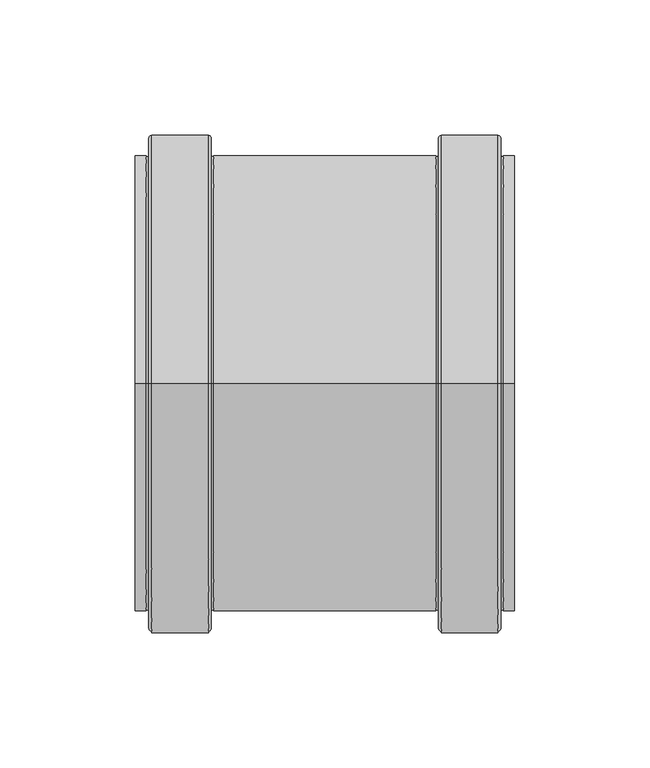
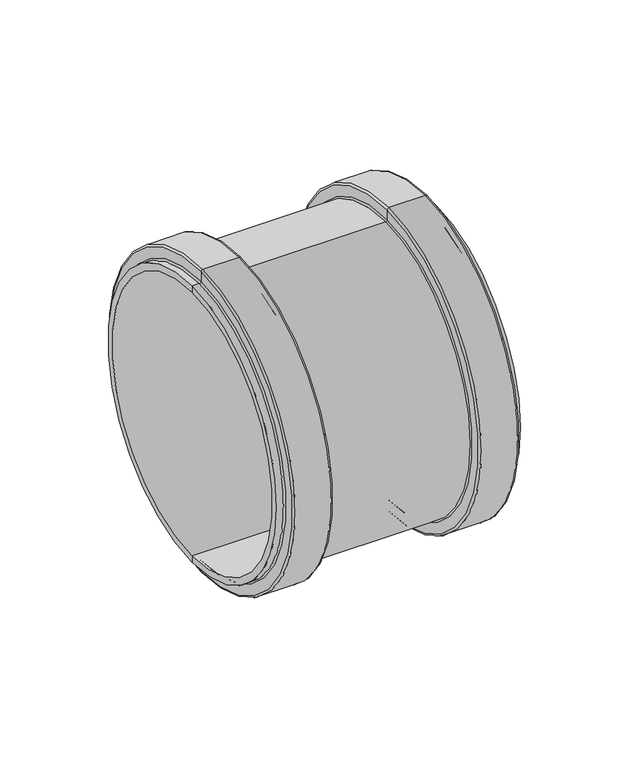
"""IFC4 building model written with IfcOpenShell, lengths in millimetres: pipe fitting geometry, MarleyPlumbingAndDrainage_PipeFitting_dBlueSlipCoupling_VMP : VMP-160-000-00D - 160mm - Blue."""

from ifc_helpers import new_model, si_unit, point, frame, origin, place, context, project, spatial, polyline, circle_curve, ellipse_curve, trimmed, source, transform, mapped, element, save
from ifc_brep_helpers import plane_surface, cylinder_surface, revolved_surface, advanced_brep


def pipe_fitting_46917a60(model_context):
    return source(origin(), model_context, "Body", "AdvancedBrep", [
        advanced_brep(
        [(-55.8253818, 0.0, -84.0), (-55.8253818, 0.0, 84.0), (26.1746182, 0.0, 84.0), (26.1746182, 0.0, -84.0), (55.1746182, 0.0, -80.0), (55.1746182, 0.0, 80.0), (-84.8253818, 0.0, 80.0), (-84.8253818, 0.0, -80.0), (55.1746182, 0.0, -84.0), (55.1746182, 0.0, 84.0), (51.1746182, 0.0, -84.0), (51.1746182, 0.0, 84.0), (50.1746182, 0.0, -85.0), (50.1746182, 0.0, 85.0), (50.1746182, 0.0, -91.0), (50.1746182, 0.0, 91.0), (49.1746182, 0.0, -92.0), (49.1746182, 0.0, 92.0), (28.1746182, 0.0, -92.0), (28.1746182, 0.0, 92.0), (27.1746182, 0.0, -91.0), (27.1746182, 0.0, 91.0), (27.1746182, 0.0, -85.0), (27.1746182, 0.0, 85.0), (-56.8253818, 0.0, -85.0), (-56.8253818, 0.0, 85.0), (-56.8253818, 0.0, -91.0), (-56.8253818, 0.0, 91.0), (-57.8253818, 0.0, -92.0), (-57.8253818, 0.0, 92.0), (-78.8253818, 0.0, -92.0), (-78.8253818, 0.0, 92.0), (-79.8253818, 0.0, -91.0), (-79.8253818, 0.0, 91.0), (-79.8253818, 0.0, -85.0), (-79.8253818, 0.0, 85.0), (-80.8253818, 0.0, -84.0), (-80.8253818, 0.0, 84.0), (-84.8253818, 0.0, -84.0), (-84.8253818, 0.0, 84.0)],
        [
            (0, 1, circle_curve(frame((-55.8253818, 0.0, 0.0), z_axis=(1.0, 0.0, 0.0), x_axis=(0.0, 0.0, 1.0)), 84.0)),
            (1, 2),
            (2, 3, circle_curve(frame((26.1746182, 0.0, 0.0), z_axis=(-1.0, 0.0, 0.0), x_axis=(0.0, 0.0, 1.0)), 84.0)),
            (3, 0),
            (1, 0, circle_curve(frame((-55.8253818, 0.0, 0.0), z_axis=(1.0, 0.0, 0.0), x_axis=(0.0, 0.0, 1.0)), 84.0)),
            (3, 2, circle_curve(frame((26.1746182, 0.0, 0.0), z_axis=(-1.0, 0.0, 0.0), x_axis=(0.0, 0.0, 1.0)), 84.0)),
            (4, 5, circle_curve(frame((55.1746182, 0.0, 0.0), z_axis=(1.0, 0.0, 0.0), x_axis=(0.0, 0.0, 1.0)), 80.0)),
            (5, 6),
            (6, 7, circle_curve(frame((-84.8253818, 0.0, 0.0), z_axis=(-1.0, 0.0, 0.0), x_axis=(0.0, 0.0, 1.0)), 80.0)),
            (7, 4),
            (5, 4, circle_curve(frame((55.1746182, 0.0, 0.0), z_axis=(1.0, 0.0, 0.0), x_axis=(0.0, 0.0, 1.0)), 80.0)),
            (7, 6, circle_curve(frame((-84.8253818, 0.0, 0.0), z_axis=(-1.0, 0.0, 0.0), x_axis=(0.0, 0.0, 1.0)), 80.0)),
            (8, 9, circle_curve(frame((55.1746182, 0.0, 0.0), z_axis=(1.0, 0.0, 0.0), x_axis=(0.0, 0.0, 1.0)), 84.0)),
            (9, 5),
            (4, 8),
            (9, 8, circle_curve(frame((55.1746182, 0.0, 0.0), z_axis=(1.0, 0.0, 0.0), x_axis=(0.0, 0.0, 1.0)), 84.0)),
            (10, 11, circle_curve(frame((51.1746182, 0.0, 0.0), z_axis=(1.0, 0.0, 0.0), x_axis=(0.0, 0.0, 1.0)), 84.0)),
            (11, 9),
            (8, 10),
            (11, 10, circle_curve(frame((51.1746182, 0.0, 0.0), z_axis=(1.0, 0.0, 0.0), x_axis=(0.0, 0.0, 1.0)), 84.0)),
            (12, 13, circle_curve(frame((50.1746182, 0.0, 0.0), z_axis=(1.0, 0.0, 0.0), x_axis=(0.0, 0.0, 1.0)), 85.0)),
            (13, 11, circle_curve(frame((51.1746182, 0.0, 85.0), z_axis=(0.0, -1.0, 0.0), x_axis=(1.0, 0.0, 0.0)), 1.0)),
            (10, 12, circle_curve(frame((51.1746182, 0.0, -85.0), z_axis=(0.0, -1.0, 0.0), x_axis=(1.0, 0.0, 0.0)), 1.0)),
            (13, 12, circle_curve(frame((50.1746182, 0.0, 0.0), z_axis=(1.0, 0.0, 0.0), x_axis=(0.0, 0.0, 1.0)), 85.0)),
            (14, 15, circle_curve(frame((50.1746182, 0.0, 0.0), z_axis=(1.0, 0.0, 0.0), x_axis=(0.0, 0.0, 1.0)), 91.0)),
            (15, 13),
            (12, 14),
            (15, 14, circle_curve(frame((50.1746182, 0.0, 0.0), z_axis=(1.0, 0.0, 0.0), x_axis=(0.0, 0.0, 1.0)), 91.0)),
            (16, 17, circle_curve(frame((49.1746182, 0.0, 0.0), z_axis=(1.0, 0.0, 0.0), x_axis=(0.0, 0.0, 1.0)), 92.0)),
            (17, 15, circle_curve(frame((49.1746182, 0.0, 91.0), z_axis=(0.0, 1.0, 0.0), x_axis=(1.0, 0.0, 0.0)), 1.0)),
            (14, 16, circle_curve(frame((49.1746182, 0.0, -91.0), z_axis=(0.0, 1.0, 0.0), x_axis=(1.0, 0.0, 0.0)), 1.0)),
            (17, 16, circle_curve(frame((49.1746182, 0.0, 0.0), z_axis=(1.0, 0.0, 0.0), x_axis=(0.0, 0.0, 1.0)), 92.0)),
            (18, 19, circle_curve(frame((28.1746182, 0.0, 0.0), z_axis=(1.0, 0.0, 0.0), x_axis=(0.0, 0.0, 1.0)), 92.0)),
            (19, 17),
            (16, 18),
            (19, 18, circle_curve(frame((28.1746182, 0.0, 0.0), z_axis=(1.0, 0.0, 0.0), x_axis=(0.0, 0.0, 1.0)), 92.0)),
            (20, 21, circle_curve(frame((27.1746182, 0.0, 0.0), z_axis=(1.0, 0.0, 0.0), x_axis=(0.0, 0.0, 1.0)), 91.0)),
            (21, 19, circle_curve(frame((28.1746182, 0.0, 91.0), z_axis=(0.0, 1.0, 0.0), x_axis=(1.0, 0.0, 0.0)), 1.0)),
            (18, 20, circle_curve(frame((28.1746182, 0.0, -91.0), z_axis=(0.0, 1.0, 0.0), x_axis=(1.0, 0.0, 0.0)), 1.0)),
            (21, 20, circle_curve(frame((27.1746182, 0.0, 0.0), z_axis=(1.0, 0.0, 0.0), x_axis=(0.0, 0.0, 1.0)), 91.0)),
            (22, 23, circle_curve(frame((27.1746182, 0.0, 0.0), z_axis=(1.0, 0.0, 0.0), x_axis=(0.0, 0.0, 1.0)), 85.0)),
            (23, 21),
            (20, 22),
            (23, 22, circle_curve(frame((27.1746182, 0.0, 0.0), z_axis=(1.0, 0.0, 0.0), x_axis=(0.0, 0.0, 1.0)), 85.0)),
            (2, 23, circle_curve(frame((26.1746182, 0.0, 85.0), z_axis=(0.0, -1.0, 0.0), x_axis=(1.0, 0.0, 0.0)), 1.0)),
            (22, 3, circle_curve(frame((26.1746182, 0.0, -85.0), z_axis=(0.0, -1.0, 0.0), x_axis=(1.0, 0.0, 0.0)), 1.0)),
            (24, 25, circle_curve(frame((-56.8253818, 0.0, 0.0), z_axis=(1.0, 0.0, 0.0), x_axis=(0.0, 0.0, 1.0)), 85.0)),
            (25, 1, circle_curve(frame((-55.8253818, 0.0, 85.0), z_axis=(0.0, -1.0, 0.0), x_axis=(1.0, 0.0, 0.0)), 1.0)),
            (0, 24, circle_curve(frame((-55.8253818, 0.0, -85.0), z_axis=(0.0, -1.0, 0.0), x_axis=(1.0, 0.0, 0.0)), 1.0)),
            (25, 24, circle_curve(frame((-56.8253818, 0.0, 0.0), z_axis=(1.0, 0.0, 0.0), x_axis=(0.0, 0.0, 1.0)), 85.0)),
            (26, 27, circle_curve(frame((-56.8253818, 0.0, 0.0), z_axis=(1.0, 0.0, 0.0), x_axis=(0.0, 0.0, 1.0)), 91.0)),
            (27, 25),
            (24, 26),
            (27, 26, circle_curve(frame((-56.8253818, 0.0, 0.0), z_axis=(1.0, 0.0, 0.0), x_axis=(0.0, 0.0, 1.0)), 91.0)),
            (28, 29, circle_curve(frame((-57.8253818, 0.0, 0.0), z_axis=(1.0, 0.0, 0.0), x_axis=(0.0, 0.0, 1.0)), 92.0)),
            (29, 27, circle_curve(frame((-57.8253818, 0.0, 91.0), z_axis=(0.0, 1.0, 0.0), x_axis=(1.0, 0.0, 0.0)), 1.0)),
            (26, 28, circle_curve(frame((-57.8253818, 0.0, -91.0), z_axis=(0.0, 1.0, 0.0), x_axis=(1.0, 0.0, 0.0)), 1.0)),
            (29, 28, circle_curve(frame((-57.8253818, 0.0, 0.0), z_axis=(1.0, 0.0, 0.0), x_axis=(0.0, 0.0, 1.0)), 92.0)),
            (30, 31, circle_curve(frame((-78.8253818, 0.0, 0.0), z_axis=(1.0, 0.0, 0.0), x_axis=(0.0, 0.0, 1.0)), 92.0)),
            (31, 29),
            (28, 30),
            (31, 30, circle_curve(frame((-78.8253818, 0.0, 0.0), z_axis=(1.0, 0.0, 0.0), x_axis=(0.0, 0.0, 1.0)), 92.0)),
            (32, 33, circle_curve(frame((-79.8253818, 0.0, 0.0), z_axis=(1.0, 0.0, 0.0), x_axis=(0.0, 0.0, 1.0)), 91.0)),
            (33, 31, circle_curve(frame((-78.8253818, 0.0, 91.0), z_axis=(0.0, 1.0, 0.0), x_axis=(1.0, 0.0, 0.0)), 1.0)),
            (30, 32, circle_curve(frame((-78.8253818, 0.0, -91.0), z_axis=(0.0, 1.0, 0.0), x_axis=(1.0, 0.0, 0.0)), 1.0)),
            (33, 32, circle_curve(frame((-79.8253818, 0.0, 0.0), z_axis=(1.0, 0.0, 0.0), x_axis=(0.0, 0.0, 1.0)), 91.0)),
            (34, 35, circle_curve(frame((-79.8253818, 0.0, 0.0), z_axis=(1.0, 0.0, 0.0), x_axis=(0.0, 0.0, 1.0)), 85.0)),
            (35, 33),
            (32, 34),
            (35, 34, circle_curve(frame((-79.8253818, 0.0, 0.0), z_axis=(1.0, 0.0, 0.0), x_axis=(0.0, 0.0, 1.0)), 85.0)),
            (36, 37, circle_curve(frame((-80.8253818, 0.0, 0.0), z_axis=(1.0, 0.0, 0.0), x_axis=(0.0, 0.0, 1.0)), 84.0)),
            (37, 35, circle_curve(frame((-80.8253818, 0.0, 85.0), z_axis=(0.0, -1.0, 0.0), x_axis=(1.0, 0.0, 0.0)), 1.0)),
            (34, 36, circle_curve(frame((-80.8253818, 0.0, -85.0), z_axis=(0.0, -1.0, 0.0), x_axis=(1.0, 0.0, 0.0)), 1.0)),
            (37, 36, circle_curve(frame((-80.8253818, 0.0, 0.0), z_axis=(1.0, 0.0, 0.0), x_axis=(0.0, 0.0, 1.0)), 84.0)),
            (38, 39, circle_curve(frame((-84.8253818, 0.0, 0.0), z_axis=(1.0, 0.0, 0.0), x_axis=(0.0, 0.0, 1.0)), 84.0)),
            (39, 37),
            (36, 38),
            (39, 38, circle_curve(frame((-84.8253818, 0.0, 0.0), z_axis=(1.0, 0.0, 0.0), x_axis=(0.0, 0.0, 1.0)), 84.0)),
            (6, 39),
            (38, 7),
        ],
        [
            cylinder_surface(frame((-1222.7325039, 0.0, 0.0), z_axis=(-1.0, 0.0, 0.0), x_axis=(0.0, 0.0, 1.0)), 84.0),
            revolved_surface(polyline([(-84.82538180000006, 0.0, 80.0), (55.17461819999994, 0.0, 80.0)]), (-1222.7325039, 0.0, 0.0), (-1.0, 0.0, 0.0)),
            plane_surface(frame((55.1746182, 0.0, 0.0), z_axis=(1.0, 0.0, 0.0), x_axis=(0.0, 0.0, 1.0))),
            revolved_surface(trimmed(ellipse_curve(frame((51.1746182, 0.0, 85.0), z_axis=(0.0, 1.0, 0.0), x_axis=(1.0, 0.0, 0.0)), 1.0, 1.0), [point((51.1746182, 0.0, 84.0))], [point((50.1746182, 0.0, 85.0))], True, "CARTESIAN"), (-1222.7325039, 0.0, 0.0), (-1.0, 0.0, 0.0)),
            plane_surface(frame((50.1746182, 0.0, 0.0), z_axis=(1.0, 0.0, 0.0), x_axis=(0.0, 0.0, 1.0))),
            revolved_surface(trimmed(ellipse_curve(frame((49.1746182, 0.0, 91.0), z_axis=(0.0, -1.0, 0.0), x_axis=(1.0, 0.0, 0.0)), 1.0, 1.0), [point((50.1746182, 0.0, 91.0))], [point((49.1746182, 0.0, 92.0))], True, "CARTESIAN"), (-1222.7325039, 0.0, 0.0), (-1.0, 0.0, 0.0)),
            cylinder_surface(frame((-1222.7325039, 0.0, 0.0), z_axis=(-1.0, 0.0, 0.0), x_axis=(0.0, 0.0, 1.0)), 92.0),
            revolved_surface(trimmed(ellipse_curve(frame((28.1746182, 0.0, 91.0), z_axis=(0.0, -1.0, 0.0), x_axis=(1.0, 0.0, 0.0)), 1.0, 1.0), [point((28.1746182, 0.0, 92.0))], [point((27.1746182, 0.0, 91.0))], True, "CARTESIAN"), (-1222.7325039, 0.0, 0.0), (-1.0, 0.0, 0.0)),
            plane_surface(frame((27.1746182, 0.0, 0.0), z_axis=(-1.0, 0.0, 0.0), x_axis=(0.0, 0.0, 1.0))),
            revolved_surface(trimmed(ellipse_curve(frame((26.1746182, 0.0, 85.0), z_axis=(0.0, 1.0, 0.0), x_axis=(1.0, 0.0, 0.0)), 1.0, 1.0), [point((27.1746182, 0.0, 85.0))], [point((26.1746182, 0.0, 84.0))], True, "CARTESIAN"), (-1222.7325039, 0.0, 0.0), (-1.0, 0.0, 0.0)),
            revolved_surface(trimmed(ellipse_curve(frame((-55.8253818, 0.0, 85.0), z_axis=(0.0, 1.0, 0.0), x_axis=(1.0, 0.0, 0.0)), 1.0, 1.0), [point((-55.8253818, 0.0, 84.0))], [point((-56.8253818, 0.0, 85.0))], True, "CARTESIAN"), (-1222.7325039, 0.0, 0.0), (-1.0, 0.0, 0.0)),
            plane_surface(frame((-56.8253818, 0.0, 0.0), z_axis=(1.0, 0.0, 0.0), x_axis=(0.0, 0.0, 1.0))),
            revolved_surface(trimmed(ellipse_curve(frame((-57.8253818, 0.0, 91.0), z_axis=(0.0, -1.0, 0.0), x_axis=(1.0, 0.0, 0.0)), 1.0, 1.0), [point((-56.8253818, 0.0, 91.0))], [point((-57.8253818, 0.0, 92.0))], True, "CARTESIAN"), (-1222.7325039, 0.0, 0.0), (-1.0, 0.0, 0.0)),
            revolved_surface(trimmed(ellipse_curve(frame((-78.8253818, 0.0, 91.0), z_axis=(0.0, -1.0, 0.0), x_axis=(1.0, 0.0, 0.0)), 1.0, 1.0), [point((-78.8253818, 0.0, 92.0))], [point((-79.8253818, 0.0, 91.0))], True, "CARTESIAN"), (-1222.7325039, 0.0, 0.0), (-1.0, 0.0, 0.0)),
            plane_surface(frame((-79.8253818, 0.0, 0.0), z_axis=(-1.0, 0.0, 0.0), x_axis=(0.0, 0.0, 1.0))),
            revolved_surface(trimmed(ellipse_curve(frame((-80.8253818, 0.0, 85.0), z_axis=(0.0, 1.0, 0.0), x_axis=(1.0, 0.0, 0.0)), 1.0, 1.0), [point((-79.8253818, 0.0, 85.0))], [point((-80.8253818, 0.0, 84.0))], True, "CARTESIAN"), (-1222.7325039, 0.0, 0.0), (-1.0, 0.0, 0.0)),
            plane_surface(frame((-84.8253818, 0.0, 0.0), z_axis=(-1.0, 0.0, 0.0), x_axis=(0.0, 0.0, 1.0))),
        ],
        [
            (0, [[1, 2, 3, 4]]),
            (0, [[5, -4, 6, -2]]),
            (1, [[7, 8, 9, 10]]),
            (1, [[11, -10, 12, -8]]),
            (2, [[13, 14, -7, 15]]),
            (2, [[16, -15, -11, -14]]),
            (0, [[17, 18, -13, 19]]),
            (0, [[20, -19, -16, -18]]),
            (3, [[21, 22, -17, 23]]),
            (3, [[24, -23, -20, -22]]),
            (4, [[25, 26, -21, 27]]),
            (4, [[28, -27, -24, -26]]),
            (5, [[29, 30, -25, 31]]),
            (5, [[32, -31, -28, -30]]),
            (6, [[33, 34, -29, 35]]),
            (6, [[36, -35, -32, -34]]),
            (7, [[37, 38, -33, 39]]),
            (7, [[40, -39, -36, -38]]),
            (8, [[41, 42, -37, 43]]),
            (8, [[44, -43, -40, -42]]),
            (9, [[-3, 45, -41, 46]]),
            (9, [[-6, -46, -44, -45]]),
            (10, [[47, 48, -1, 49]]),
            (10, [[50, -49, -5, -48]]),
            (11, [[51, 52, -47, 53]]),
            (11, [[54, -53, -50, -52]]),
            (12, [[55, 56, -51, 57]]),
            (12, [[58, -57, -54, -56]]),
            (6, [[59, 60, -55, 61]]),
            (6, [[62, -61, -58, -60]]),
            (13, [[63, 64, -59, 65]]),
            (13, [[66, -65, -62, -64]]),
            (14, [[67, 68, -63, 69]]),
            (14, [[70, -69, -66, -68]]),
            (15, [[71, 72, -67, 73]]),
            (15, [[74, -73, -70, -72]]),
            (0, [[75, 76, -71, 77]]),
            (0, [[78, -77, -74, -76]]),
            (16, [[-9, 79, -75, 80]]),
            (16, [[-12, -80, -78, -79]]),
        ],
    ),
    ])


if __name__ == "__main__":
    model = new_model("IFC4")
    model_context = context("Model", 3, world=origin())
    ifc_project = project(units=[si_unit("LENGTHUNIT", "METRE", prefix="MILLI")], contexts=[model_context])
    site = spatial("IfcSite", under=ifc_project)
    building = spatial("IfcBuilding", under=site)
    placement = place(None, origin())
    pipe_fitting_shape = pipe_fitting_46917a60(model_context)
    element("IfcPipeFitting", 1, ObjectType="MarleyPlumbingAndDrainage_PipeFitting_dBlueSlipCoupling_VMP : VMP-160-000-00D - 160mm - Blue", at=placement, inside=building, context=model_context, shape_type="MappedRepresentation", body=[
        mapped(pipe_fitting_shape, transform((0.0, 0.0, 0.0), x_axis=(1.0, 0.0, 0.0), y_axis=(0.0, 1.0, 0.0), z_axis=(0.0, 0.0, 1.0))),
    ])
    save(model, "model.ifc")
